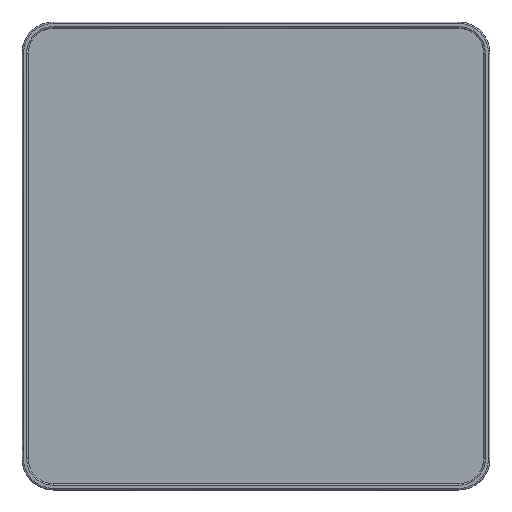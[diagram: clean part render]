
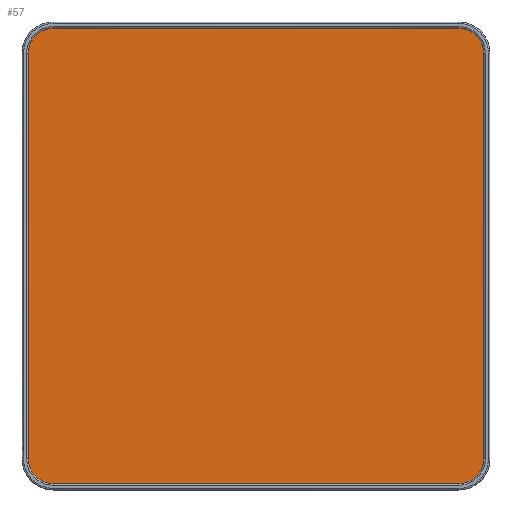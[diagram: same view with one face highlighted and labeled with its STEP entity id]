
A CAD part, top view. The second image highlights one B-rep face of the part: STEP entity #57.
In plain terms, the highlighted planar face has unit normal (0, 0, 1).
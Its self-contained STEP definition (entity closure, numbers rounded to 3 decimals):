
#57=ADVANCED_FACE('',(#124),#915,.T.);
#124=FACE_OUTER_BOUND('',#191,.T.);
#191=EDGE_LOOP('',(#330,#331,#332,#333,#334,#335,#336,#337));
#330=ORIENTED_EDGE('',*,*,#549,.F.);
#331=ORIENTED_EDGE('',*,*,#548,.F.);
#332=ORIENTED_EDGE('',*,*,#547,.F.);
#333=ORIENTED_EDGE('',*,*,#546,.F.);
#334=ORIENTED_EDGE('',*,*,#545,.F.);
#335=ORIENTED_EDGE('',*,*,#544,.F.);
#336=ORIENTED_EDGE('',*,*,#543,.F.);
#337=ORIENTED_EDGE('',*,*,#542,.F.);
#542=EDGE_CURVE('',#799,#798,#662,.T.);
#543=EDGE_CURVE('',#798,#800,#663,.T.);
#544=EDGE_CURVE('',#800,#801,#664,.T.);
#545=EDGE_CURVE('',#801,#802,#665,.T.);
#546=EDGE_CURVE('',#802,#803,#666,.T.);
#547=EDGE_CURVE('',#803,#804,#667,.T.);
#548=EDGE_CURVE('',#804,#805,#668,.T.);
#549=EDGE_CURVE('',#805,#799,#669,.T.);
#662=(
BOUNDED_CURVE()
B_SPLINE_CURVE(2,(#2760,#2761,#2762),.UNSPECIFIED.,.F.,.F.)
B_SPLINE_CURVE_WITH_KNOTS((3,3),(-2281.062,-1761.062),
 .UNSPECIFIED.)
CURVE()
GEOMETRIC_REPRESENTATION_ITEM()
RATIONAL_B_SPLINE_CURVE((1.,1.,1.))
REPRESENTATION_ITEM('')
);
#663=(
BOUNDED_CURVE()
B_SPLINE_CURVE(2,(#2763,#2764,#2765),.UNSPECIFIED.,.F.,.F.)
B_SPLINE_CURVE_WITH_KNOTS((3,3),(-1761.062,-1710.796),
 .UNSPECIFIED.)
CURVE()
GEOMETRIC_REPRESENTATION_ITEM()
RATIONAL_B_SPLINE_CURVE((1.,0.707,1.))
REPRESENTATION_ITEM('')
);
#664=(
BOUNDED_CURVE()
B_SPLINE_CURVE(2,(#2766,#2767,#2768),.UNSPECIFIED.,.F.,.F.)
B_SPLINE_CURVE_WITH_KNOTS((3,3),(-1710.796,-1190.796),
 .UNSPECIFIED.)
CURVE()
GEOMETRIC_REPRESENTATION_ITEM()
RATIONAL_B_SPLINE_CURVE((1.,1.,1.))
REPRESENTATION_ITEM('')
);
#665=(
BOUNDED_CURVE()
B_SPLINE_CURVE(2,(#2769,#2770,#2771),.UNSPECIFIED.,.F.,.F.)
B_SPLINE_CURVE_WITH_KNOTS((3,3),(-1190.796,-1140.531),
 .UNSPECIFIED.)
CURVE()
GEOMETRIC_REPRESENTATION_ITEM()
RATIONAL_B_SPLINE_CURVE((1.,0.707,1.))
REPRESENTATION_ITEM('')
);
#666=(
BOUNDED_CURVE()
B_SPLINE_CURVE(2,(#2772,#2773,#2774),.UNSPECIFIED.,.F.,.F.)
B_SPLINE_CURVE_WITH_KNOTS((3,3),(-1140.531,-620.531),
 .UNSPECIFIED.)
CURVE()
GEOMETRIC_REPRESENTATION_ITEM()
RATIONAL_B_SPLINE_CURVE((1.,1.,1.))
REPRESENTATION_ITEM('')
);
#667=(
BOUNDED_CURVE()
B_SPLINE_CURVE(2,(#2775,#2776,#2777),.UNSPECIFIED.,.F.,.F.)
B_SPLINE_CURVE_WITH_KNOTS((3,3),(-620.531,-570.265),
 .UNSPECIFIED.)
CURVE()
GEOMETRIC_REPRESENTATION_ITEM()
RATIONAL_B_SPLINE_CURVE((1.,0.707,1.))
REPRESENTATION_ITEM('')
);
#668=(
BOUNDED_CURVE()
B_SPLINE_CURVE(2,(#2778,#2779,#2780),.UNSPECIFIED.,.F.,.F.)
B_SPLINE_CURVE_WITH_KNOTS((3,3),(-570.265,-50.265),
 .UNSPECIFIED.)
CURVE()
GEOMETRIC_REPRESENTATION_ITEM()
RATIONAL_B_SPLINE_CURVE((1.,1.,1.))
REPRESENTATION_ITEM('')
);
#669=(
BOUNDED_CURVE()
B_SPLINE_CURVE(2,(#2781,#2782,#2783),.UNSPECIFIED.,.F.,.F.)
B_SPLINE_CURVE_WITH_KNOTS((3,3),(-50.265,0.),.UNSPECIFIED.)
CURVE()
GEOMETRIC_REPRESENTATION_ITEM()
RATIONAL_B_SPLINE_CURVE((1.,0.707,1.))
REPRESENTATION_ITEM('')
);
#798=VERTEX_POINT('',#2704);
#799=VERTEX_POINT('',#2705);
#800=VERTEX_POINT('',#2706);
#801=VERTEX_POINT('',#2707);
#802=VERTEX_POINT('',#2708);
#803=VERTEX_POINT('',#2709);
#804=VERTEX_POINT('',#2710);
#805=VERTEX_POINT('',#2711);
#915=PLANE('',#950);
#950=AXIS2_PLACEMENT_3D('',#2182,#968,$);
#968=DIRECTION('',(0.,0.,1.));
#2182=CARTESIAN_POINT('',(365.,-65.,288.));
#2704=CARTESIAN_POINT('',(-292.,560.,288.));
#2705=CARTESIAN_POINT('',(-292.,40.,288.));
#2706=CARTESIAN_POINT('',(-260.,592.,288.));
#2707=CARTESIAN_POINT('',(260.,592.,288.));
#2708=CARTESIAN_POINT('',(292.,560.,288.));
#2709=CARTESIAN_POINT('',(292.,40.,288.));
#2710=CARTESIAN_POINT('',(260.,8.,288.));
#2711=CARTESIAN_POINT('',(-260.,8.,288.));
#2760=CARTESIAN_POINT('',(-292.,40.,288.));
#2761=CARTESIAN_POINT('',(-292.,300.,288.));
#2762=CARTESIAN_POINT('',(-292.,560.,288.));
#2763=CARTESIAN_POINT('',(-292.,560.,288.));
#2764=CARTESIAN_POINT('',(-292.,592.,288.));
#2765=CARTESIAN_POINT('',(-260.,592.,288.));
#2766=CARTESIAN_POINT('',(-260.,592.,288.));
#2767=CARTESIAN_POINT('',(0.,592.,288.));
#2768=CARTESIAN_POINT('',(260.,592.,288.));
#2769=CARTESIAN_POINT('',(260.,592.,288.));
#2770=CARTESIAN_POINT('',(292.,592.,288.));
#2771=CARTESIAN_POINT('',(292.,560.,288.));
#2772=CARTESIAN_POINT('',(292.,560.,288.));
#2773=CARTESIAN_POINT('',(292.,300.,288.));
#2774=CARTESIAN_POINT('',(292.,40.,288.));
#2775=CARTESIAN_POINT('',(292.,40.,288.));
#2776=CARTESIAN_POINT('',(292.,8.,288.));
#2777=CARTESIAN_POINT('',(260.,8.,288.));
#2778=CARTESIAN_POINT('',(260.,8.,288.));
#2779=CARTESIAN_POINT('',(0.,8.,288.));
#2780=CARTESIAN_POINT('',(-260.,8.,288.));
#2781=CARTESIAN_POINT('',(-260.,8.,288.));
#2782=CARTESIAN_POINT('',(-292.,8.,288.));
#2783=CARTESIAN_POINT('',(-292.,40.,288.));
